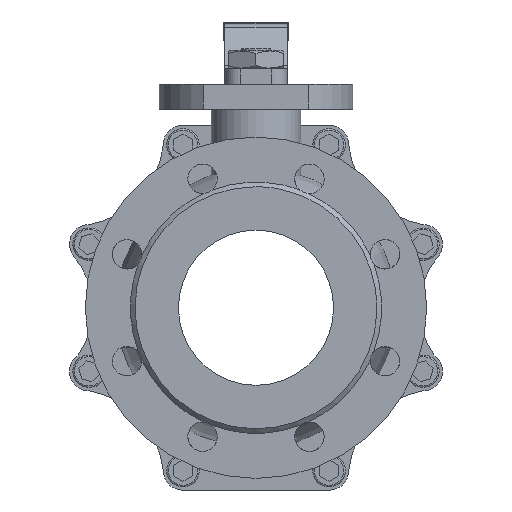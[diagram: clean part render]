
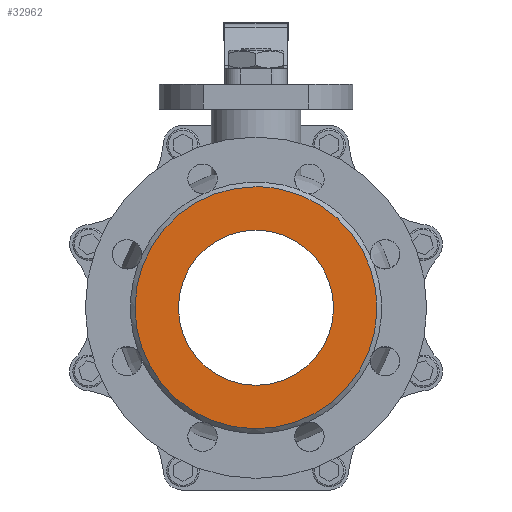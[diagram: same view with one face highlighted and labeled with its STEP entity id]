
A CAD part, front view. The second image highlights one B-rep face of the part: STEP entity #32962.
In plain terms, the highlighted planar face has unit normal (0, -1, 0).
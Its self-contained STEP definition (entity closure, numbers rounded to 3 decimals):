
#32962=ADVANCED_FACE('',(#59514,#59516),#59518,.T.);
#59514=FACE_BOUND('',#59515,.T.);
#59515=EDGE_LOOP('',(#81923,#81924));
#59516=FACE_BOUND('',#59517,.T.);
#59517=EDGE_LOOP('',(#81925));
#59518=PLANE('',#59519);
#59519=AXIS2_PLACEMENT_3D('',#59520,#59521,#59522);
#59520=CARTESIAN_POINT('',(2831.536,1121.609,-33.352));
#59521=DIRECTION('',(0.,-1.,0.));
#59522=DIRECTION('',(1.,0.,0.));
#81923=ORIENTED_EDGE('',*,*,#93105,.T.);
#81924=ORIENTED_EDGE('',*,*,#93106,.T.);
#81925=ORIENTED_EDGE('',*,*,#93131,.T.);
#93105=EDGE_CURVE('',#111200,#111201,#111202,.T.);
#93106=EDGE_CURVE('',#111201,#111200,#111203,.T.);
#93131=EDGE_CURVE('',#111240,#111240,#111241,.T.);
#111200=VERTEX_POINT('',#151727);
#111201=VERTEX_POINT('',#151728);
#111202=CIRCLE('',#151729,78.);
#111203=CIRCLE('',#151733,78.);
#111240=VERTEX_POINT('',#151955);
#111241=CIRCLE('',#151956,50.);
#151727=CARTESIAN_POINT('',(2831.536,1121.609,44.648));
#151728=CARTESIAN_POINT('',(2848.113,1121.609,42.866));
#151729=AXIS2_PLACEMENT_3D('',#151730,#151731,#151732);
#151730=CARTESIAN_POINT('',(2831.536,1121.609,-33.352));
#151731=DIRECTION('',(0.,-1.,0.));
#151732=DIRECTION('',(0.,0.,1.));
#151733=AXIS2_PLACEMENT_3D('',#151734,#151735,#151736);
#151734=CARTESIAN_POINT('',(2831.536,1121.609,-33.352));
#151735=DIRECTION('',(0.,-1.,0.));
#151736=DIRECTION('',(0.213,0.,0.977));
#151955=CARTESIAN_POINT('',(2831.536,1121.609,-83.352));
#151956=AXIS2_PLACEMENT_3D('',#151957,#151958,#151959);
#151957=CARTESIAN_POINT('',(2831.536,1121.609,-33.352));
#151958=DIRECTION('',(0.,1.,0.));
#151959=DIRECTION('',(0.,0.,-1.));
